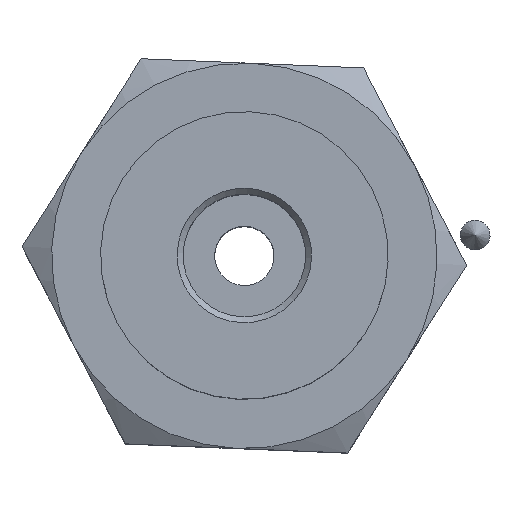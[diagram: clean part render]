
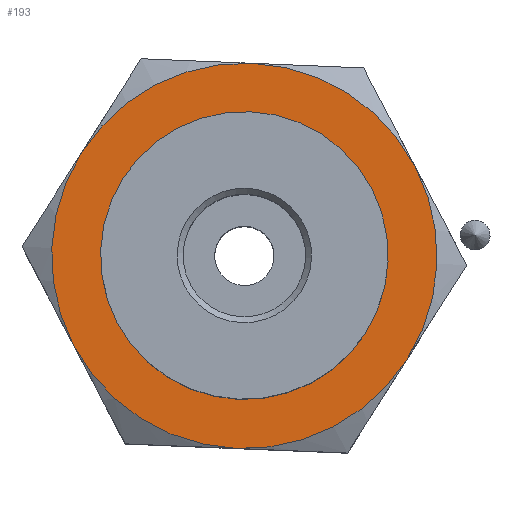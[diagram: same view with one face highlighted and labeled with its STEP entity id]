
A CAD part, top view. The second image highlights one B-rep face of the part: STEP entity #193.
In plain terms, the highlighted planar face has unit normal (0, 0, 1) as drawn and (1, 0, 0) by its records, which use the part's own axes.
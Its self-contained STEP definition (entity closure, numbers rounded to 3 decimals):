
#193=ADVANCED_FACE('',(#363,#364),#365,.F.);
#363=FACE_OUTER_BOUND('',#555,.T.);
#364=FACE_BOUND('',#556,.T.);
#365=PLANE('',#557);
#555=EDGE_LOOP('',(#817,#818,#819,#820,#821,#822));
#556=EDGE_LOOP('',(#823));
#557=AXIS2_PLACEMENT_3D('',#824,#825,#826);
#817=ORIENTED_EDGE('',*,*,#1057,.F.);
#818=ORIENTED_EDGE('',*,*,#1038,.F.);
#819=ORIENTED_EDGE('',*,*,#1071,.F.);
#820=ORIENTED_EDGE('',*,*,#1048,.F.);
#821=ORIENTED_EDGE('',*,*,#1065,.F.);
#822=ORIENTED_EDGE('',*,*,#1084,.F.);
#823=ORIENTED_EDGE('',*,*,#1085,.T.);
#824=CARTESIAN_POINT('',(2.5,11.258,6.5));
#825=DIRECTION('',(-1.0,0.,0.0));
#826=DIRECTION('',(0.0,0.0,1.0));
#1038=EDGE_CURVE('',#1159,#1155,#1160,.T.);
#1048=EDGE_CURVE('',#1176,#1172,#1177,.T.);
#1057=EDGE_CURVE('',#1155,#1186,#1190,.T.);
#1065=EDGE_CURVE('',#1198,#1176,#1202,.T.);
#1071=EDGE_CURVE('',#1172,#1159,#1209,.T.);
#1084=EDGE_CURVE('',#1186,#1198,#1228,.T.);
#1085=EDGE_CURVE('',#1229,#1229,#1230,.T.);
#1155=VERTEX_POINT('',#1329);
#1159=VERTEX_POINT('',#1341);
#1160=CIRCLE('',#1342,6.5);
#1172=VERTEX_POINT('',#1368);
#1176=VERTEX_POINT('',#1380);
#1177=CIRCLE('',#1381,6.5);
#1186=VERTEX_POINT('',#1403);
#1190=CIRCLE('',#1415,6.5);
#1198=VERTEX_POINT('',#1432);
#1202=CIRCLE('',#1444,6.5);
#1209=CIRCLE('',#1459,6.5);
#1228=CIRCLE('',#1482,6.5);
#1229=VERTEX_POINT('',#1483);
#1230=CIRCLE('',#1484,4.0);
#1329=CARTESIAN_POINT('',(2.5,-5.629,3.25));
#1341=CARTESIAN_POINT('',(2.5,-5.629,-3.25));
#1342=AXIS2_PLACEMENT_3D('',#1577,#1578,#1579);
#1368=CARTESIAN_POINT('',(2.5,0.,-6.5));
#1380=CARTESIAN_POINT('',(2.5,5.629,-3.25));
#1381=AXIS2_PLACEMENT_3D('',#1582,#1583,#1584);
#1403=CARTESIAN_POINT('',(2.5,0.0,6.5));
#1415=AXIS2_PLACEMENT_3D('',#1586,#1587,#1588);
#1432=CARTESIAN_POINT('',(2.5,5.629,3.25));
#1444=AXIS2_PLACEMENT_3D('',#1590,#1591,#1592);
#1459=AXIS2_PLACEMENT_3D('',#1596,#1597,#1598);
#1482=AXIS2_PLACEMENT_3D('',#1617,#1618,#1619);
#1483=CARTESIAN_POINT('',(2.5,0.0,4.0));
#1484=AXIS2_PLACEMENT_3D('',#1620,#1621,#1622);
#1577=CARTESIAN_POINT('',(2.5,0.,0.0));
#1578=DIRECTION('',(-1.0,0.,0.0));
#1579=DIRECTION('',(0.,-1.0,0.0));
#1582=CARTESIAN_POINT('',(2.5,0.,0.0));
#1583=DIRECTION('',(-1.0,0.,0.0));
#1584=DIRECTION('',(0.,-1.0,0.0));
#1586=CARTESIAN_POINT('',(2.5,0.,0.0));
#1587=DIRECTION('',(-1.0,0.,0.0));
#1588=DIRECTION('',(0.,-1.0,0.0));
#1590=CARTESIAN_POINT('',(2.5,0.,0.0));
#1591=DIRECTION('',(-1.0,0.,0.0));
#1592=DIRECTION('',(0.,-1.0,0.0));
#1596=CARTESIAN_POINT('',(2.5,0.,0.0));
#1597=DIRECTION('',(-1.0,0.,0.0));
#1598=DIRECTION('',(0.,-1.0,0.0));
#1617=CARTESIAN_POINT('',(2.5,0.0,0.0));
#1618=DIRECTION('',(-1.0,0.0,0.0));
#1619=DIRECTION('',(0.0,0.0,1.0));
#1620=CARTESIAN_POINT('',(2.5,0.0,0.0));
#1621=DIRECTION('',(-1.0,0.0,0.0));
#1622=DIRECTION('',(0.0,0.0,1.0));
